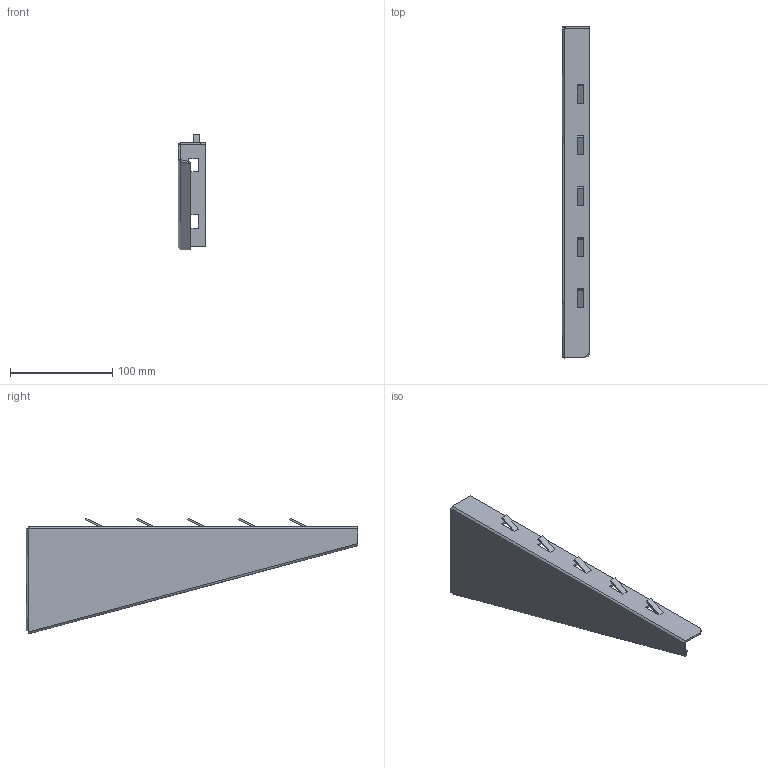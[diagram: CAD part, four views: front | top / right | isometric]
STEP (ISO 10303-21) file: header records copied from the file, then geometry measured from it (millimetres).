
FILE_DESCRIPTION(/* description */ (''),/* implementation_level */ '2;1');
FILE_NAME(/* name */ 'NZM300',/* time_stamp */ '2012-11-29T22:26:49+01:00',/* author */ (''),/* organization */ (''),/* preprocessor_version */ 'ST-DEVELOPER v10',/* originating_system */ '',/* authorisation */ '');
FILE_SCHEMA (('AUTOMOTIVE_DESIGN_CC2'));
Length unit declared in the file: millimetre
Products named in the file (1): 1
Bounding box: 27 x 325 x 113.4 mm (x, y, z)
Surface area: 72791.2 mm2 (no closed solid volume)
Topology: 0 solids, 92 shells, 92 faces, 470 edges, 448 vertices
Faces by surface type: plane 64, bspline 28
Entity records: 6122 total; most frequent: CARTESIAN_POINT 2818, ORIENTED_EDGE 440, EDGE_CURVE 440, VERTEX_POINT 440, B_SPLINE_CURVE_WITH_KNOTS 349, COLOUR_RGB 120, PRESENTATION_STYLE_ASSIGNMENT 120, STYLED_ITEM 120
